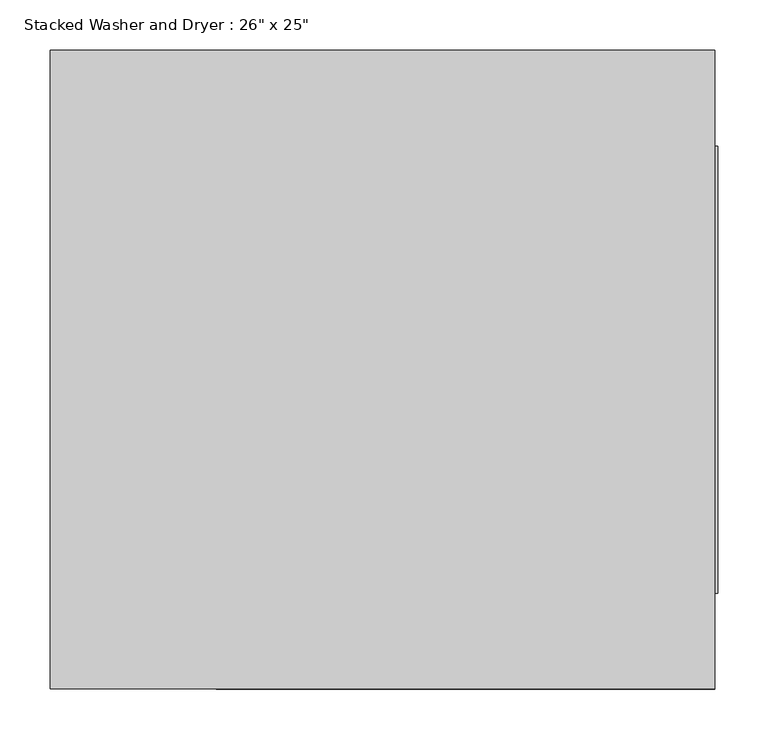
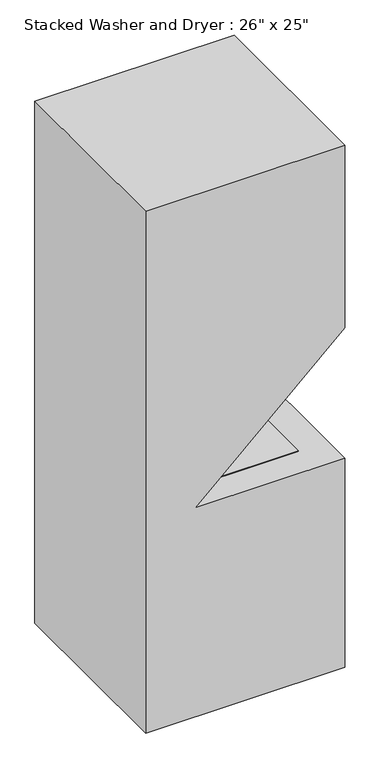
"""IFC4 building model written with IfcOpenShell, lengths in millimetres: flow terminal geometry."""

from ifc_helpers import new_model, si_unit, frame, origin, place, context, project, spatial, polyline, outline, extrude, source, transform, mapped, element, save


def flow_terminal_2c84fc24(model_context):
    return source(origin(), model_context, "Body", "SweptSolid", [
        extrude(outline(polyline([(0.0, 0.0), (0.0, 660.4), (731.8375, 660.4), (731.8375, 165.1), (1189.0375, 660.4), (1828.8, 660.4), (1828.8, 0.0), (0.0, 0.0)])), frame((0.0, -317.5, 0.0), z_axis=(0.0, 1.0, 0.0), x_axis=(0.0, 0.0, 1.0)), (0.0, 0.0, 1.0), 635.0),
        extrude(outline(polyline([(561.18125, 222.25), (561.18125, -222.25), (230.98125, -222.25), (230.98125, 222.25), (561.18125, 222.25)])), frame((0.0, 0.0, 731.8375), z_axis=(0.0, 0.0, 1.0), x_axis=(1.0, 0.0, 0.0)), (0.0, 0.0, 1.0), 3.175),
        extrude(outline(polyline([(663.575, -222.25), (660.4, -222.25), (660.4, 222.25), (663.575, 222.25), (663.575, -222.25)])), frame((0.0, 0.0, 1316.83125), z_axis=(0.0, 0.0, 1.0), x_axis=(1.0, 0.0, 0.0)), (0.0, 0.0, 1.0), 365.91875),
    ])


if __name__ == "__main__":
    model = new_model("IFC4")
    model_context = context("Model", 3, world=origin())
    ifc_project = project(units=[si_unit("LENGTHUNIT", "METRE", prefix="MILLI")], contexts=[model_context])
    site = spatial("IfcSite", under=ifc_project)
    building = spatial("IfcBuilding", under=site)
    placement = place(None, origin())
    flow_terminal_shape = flow_terminal_2c84fc24(model_context)
    element("IfcFlowTerminal", 1, ObjectType="Stacked Washer and Dryer : 26\" x 25\"", at=placement, inside=building, context=model_context, shape_type="MappedRepresentation", body=[
        mapped(flow_terminal_shape, transform((0.0, 0.0, 0.0), x_axis=(1.0, 0.0, 0.0), y_axis=(0.0, 1.0, 0.0), z_axis=(0.0, 0.0, 1.0))),
    ])
    save(model, "model.ifc")
